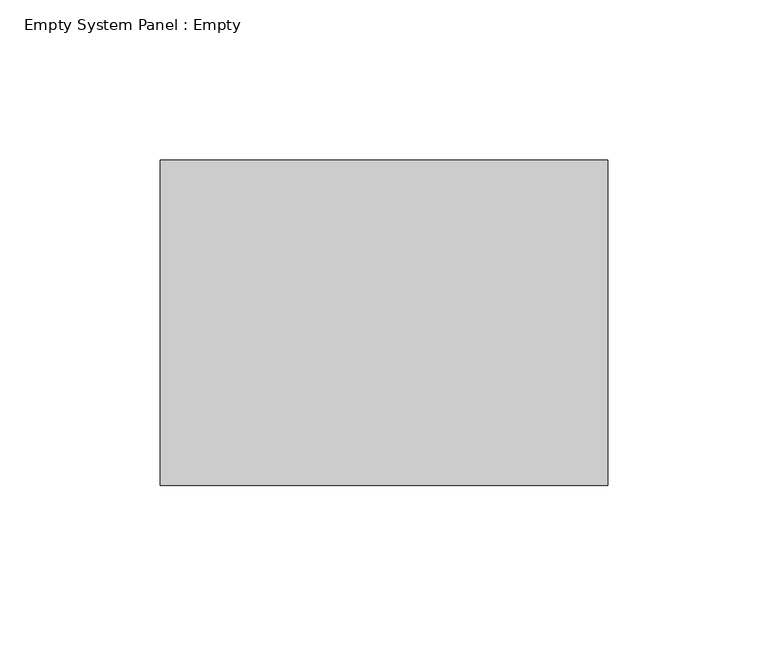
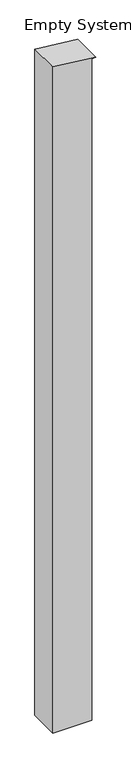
"""IFC4 building model written with IfcOpenShell, lengths in millimetres: plate geometry, Empty System Panel : Empty."""

from ifc_helpers import new_model, si_unit, frame, origin, place, context, project, spatial, polyline, outline, extrude, source, transform, mapped, element, save


def empty_system_panel_empty_ceb3d231(model_context):
    return source(origin(), model_context, "Body", "SweptSolid", [
        extrude(outline(polyline([(0.0, -69.85), (0.0, 57.15), (2281.1238221, 57.15), (2281.1238221, 69.85), (2296.749012, -69.85), (0.0, -69.85)])), frame((0.0, -50.8, 0.0), z_axis=(0.0, 1.0, 0.0), x_axis=(0.0, 0.0, 1.0)), (0.0, 0.0, 1.0), 101.6),
    ])


if __name__ == "__main__":
    model = new_model("IFC4")
    model_context = context("Model", 3, world=origin())
    ifc_project = project(units=[si_unit("LENGTHUNIT", "METRE", prefix="MILLI")], contexts=[model_context])
    site = spatial("IfcSite", under=ifc_project)
    building = spatial("IfcBuilding", under=site)
    placement = place(None, origin())
    empty_system_panel_empty_shape = empty_system_panel_empty_ceb3d231(model_context)
    element("IfcPlate", 1, ObjectType="Empty System Panel : Empty", at=placement, inside=building, context=model_context, shape_type="MappedRepresentation", body=[
        mapped(empty_system_panel_empty_shape, transform((0.0, 0.0, 0.0), x_axis=(1.0, 0.0, 0.0), y_axis=(0.0, 1.0, 0.0), z_axis=(0.0, 0.0, 1.0))),
    ])
    save(model, "model.ifc")
